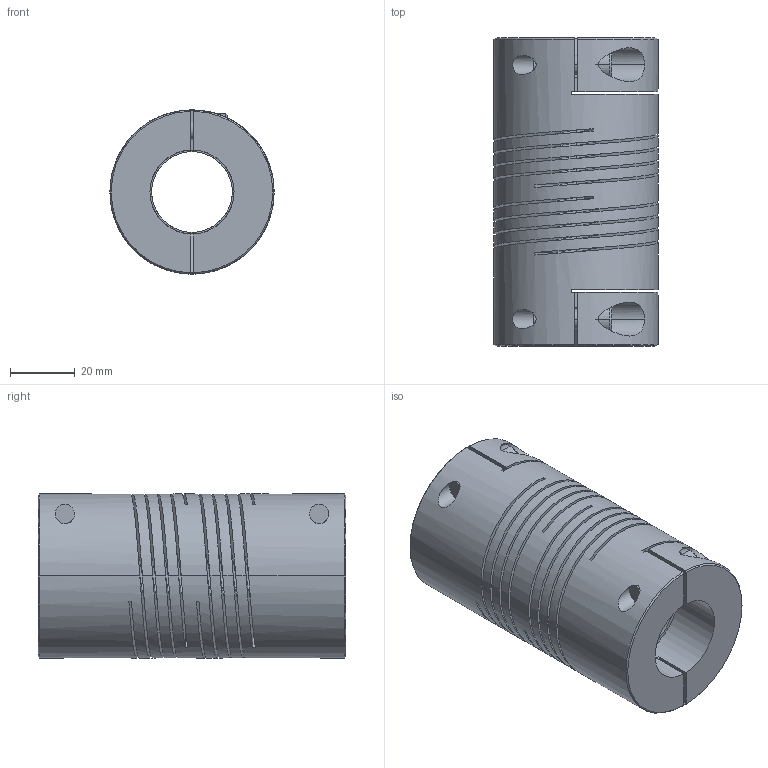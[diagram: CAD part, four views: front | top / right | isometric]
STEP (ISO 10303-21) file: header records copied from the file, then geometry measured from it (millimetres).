
FILE_DESCRIPTION((''),'2;1');
FILE_NAME('707_51','2006-12-06T',('Gary Melling'),(''),'PRO/ENGINEER BY PARAMETRIC TECHNOLOGY CORPORATION, 2006240','PRO/ENGINEER BY PARAMETRIC TECHNOLOGY CORPORATION, 2006240','');
FILE_SCHEMA(('CONFIG_CONTROL_DESIGN'));
Length unit declared in the file: millimetre
Products named in the file (1): 707_51
Bounding box: 50.8 x 95.3 x 50.79 mm (x, y, z)
Volume: 130591.2 mm3; surface area: 56201.7 mm2
Topology: 1 solids, 1 shells, 124 faces, 366 edges, 240 vertices
Faces by surface type: plane 58, cylinder 48, bspline 12, cone 6
Entity records: 6468 total; most frequent: CARTESIAN_POINT 3284, ORIENTED_EDGE 732, DIRECTION 544, EDGE_CURVE 366, VERTEX_POINT 240, VECTOR 188, LINE 188, AXIS2_PLACEMENT_3D 178
